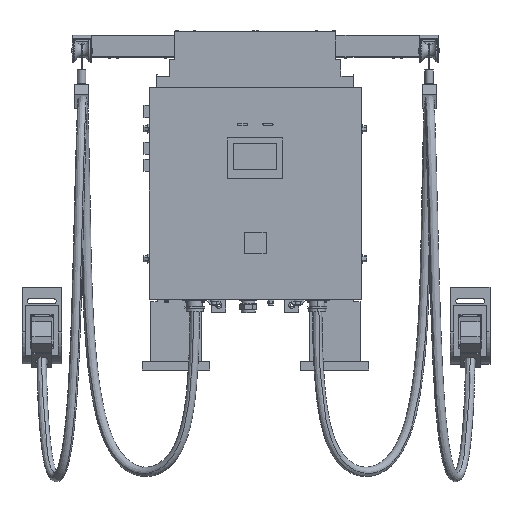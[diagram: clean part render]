
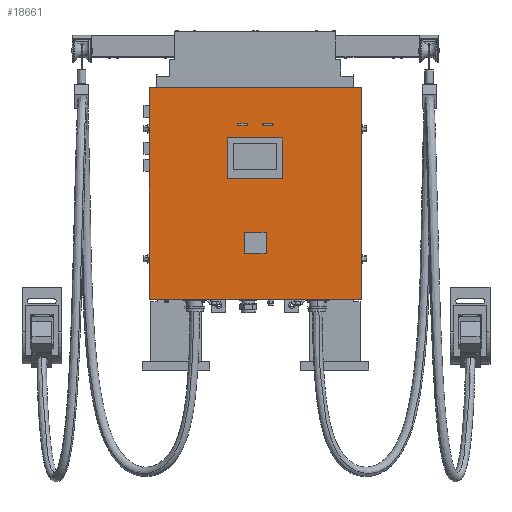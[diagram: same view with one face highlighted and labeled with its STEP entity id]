
A CAD part, top view. The second image highlights one B-rep face of the part: STEP entity #18661.
In plain terms, the highlighted planar face has unit normal (0, 0, 1).
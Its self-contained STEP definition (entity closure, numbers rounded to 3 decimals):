
#6055=DIRECTION('',(0.,-1.,0.));
#6056=VECTOR('',#6055,750.27);
#6057=CARTESIAN_POINT('',(775.75,1000.,338.7));
#6058=LINE('',#6057,#6056);
#6062=DIRECTION('',(0.,1.,0.));
#6063=VECTOR('',#6062,750.27);
#6064=CARTESIAN_POINT('',(25.75,249.73,338.7));
#6065=LINE('',#6064,#6063);
#6069=DIRECTION('',(-1.,0.,0.));
#6070=VECTOR('',#6069,750.);
#6071=CARTESIAN_POINT('',(775.75,1000.,338.7));
#6072=LINE('',#6071,#6070);
#6076=DIRECTION('',(1.,0.,0.));
#6077=VECTOR('',#6076,77.);
#6078=CARTESIAN_POINT('',(362.25,411.5,338.7));
#6079=LINE('',#6078,#6077);
#6083=DIRECTION('',(0.,1.,0.));
#6084=VECTOR('',#6083,77.);
#6085=CARTESIAN_POINT('',(439.25,411.5,338.7));
#6086=LINE('',#6085,#6084);
#6090=DIRECTION('',(-1.,0.,0.));
#6091=VECTOR('',#6090,77.);
#6092=CARTESIAN_POINT('',(439.25,488.5,338.7));
#6093=LINE('',#6092,#6091);
#6097=DIRECTION('',(0.,-1.,0.));
#6098=VECTOR('',#6097,77.);
#6099=CARTESIAN_POINT('',(362.25,488.5,338.7));
#6100=LINE('',#6099,#6098);
#6104=CARTESIAN_POINT('',(459.75,870.,338.7));
#6105=DIRECTION('',(0.,0.,1.));
#6106=DIRECTION('',(0.,-1.,0.));
#6107=AXIS2_PLACEMENT_3D('',#6104,#6105,#6106);
#6112=DIRECTION('',(-1.,0.,0.));
#6113=VECTOR('',#6112,28.);
#6114=CARTESIAN_POINT('',(459.75,874.,338.7));
#6115=LINE('',#6114,#6113);
#6119=CARTESIAN_POINT('',(431.75,870.,338.7));
#6120=DIRECTION('',(0.,0.,1.));
#6121=DIRECTION('',(0.,1.,0.));
#6122=AXIS2_PLACEMENT_3D('',#6119,#6120,#6121);
#6127=DIRECTION('',(1.,0.,0.));
#6128=VECTOR('',#6127,28.);
#6129=CARTESIAN_POINT('',(431.75,866.,338.7));
#6130=LINE('',#6129,#6128);
#6134=CARTESIAN_POINT('',(369.75,870.,338.7));
#6135=DIRECTION('',(0.,0.,1.));
#6136=DIRECTION('',(0.,-1.,0.));
#6137=AXIS2_PLACEMENT_3D('',#6134,#6135,#6136);
#6142=DIRECTION('',(-1.,0.,0.));
#6143=VECTOR('',#6142,28.);
#6144=CARTESIAN_POINT('',(369.75,874.,338.7));
#6145=LINE('',#6144,#6143);
#6149=CARTESIAN_POINT('',(341.75,870.,338.7));
#6150=DIRECTION('',(0.,0.,1.));
#6151=DIRECTION('',(0.,1.,0.));
#6152=AXIS2_PLACEMENT_3D('',#6149,#6150,#6151);
#6157=DIRECTION('',(1.,0.,0.));
#6158=VECTOR('',#6157,28.);
#6159=CARTESIAN_POINT('',(341.75,866.,338.7));
#6160=LINE('',#6159,#6158);
#6164=DIRECTION('',(0.,1.,0.));
#6165=VECTOR('',#6164,143.);
#6166=CARTESIAN_POINT('',(498.75,678.5,338.7));
#6167=LINE('',#6166,#6165);
#6171=DIRECTION('',(-1.,0.,0.));
#6172=VECTOR('',#6171,196.);
#6173=CARTESIAN_POINT('',(498.75,821.5,338.7));
#6174=LINE('',#6173,#6172);
#6178=DIRECTION('',(0.,-1.,0.));
#6179=VECTOR('',#6178,143.);
#6180=CARTESIAN_POINT('',(302.75,821.5,338.7));
#6181=LINE('',#6180,#6179);
#6185=DIRECTION('',(1.,0.,0.));
#6186=VECTOR('',#6185,196.);
#6187=CARTESIAN_POINT('',(302.75,678.5,338.7));
#6188=LINE('',#6187,#6186);
#6206=DIRECTION('',(-1.,0.,0.));
#6207=VECTOR('',#6206,750.);
#6208=CARTESIAN_POINT('',(775.75,249.73,338.7));
#6209=LINE('',#6208,#6207);
#11125=CARTESIAN_POINT('',(775.75,1000.,338.7));
#11126=CARTESIAN_POINT('',(25.75,1000.,338.7));
#11127=VERTEX_POINT('',#11125);
#11128=VERTEX_POINT('',#11126);
#11197=CARTESIAN_POINT('',(498.75,678.5,338.7));
#11198=CARTESIAN_POINT('',(498.75,821.5,338.7));
#11199=VERTEX_POINT('',#11197);
#11200=VERTEX_POINT('',#11198);
#11201=CARTESIAN_POINT('',(302.75,821.5,338.7));
#11202=VERTEX_POINT('',#11201);
#11203=CARTESIAN_POINT('',(302.75,678.5,338.7));
#11204=VERTEX_POINT('',#11203);
#11277=CARTESIAN_POINT('',(369.75,866.,338.7));
#11278=CARTESIAN_POINT('',(369.75,874.,338.7));
#11279=VERTEX_POINT('',#11277);
#11280=VERTEX_POINT('',#11278);
#11281=CARTESIAN_POINT('',(341.75,874.,338.7));
#11282=VERTEX_POINT('',#11281);
#11283=CARTESIAN_POINT('',(341.75,866.,338.7));
#11284=VERTEX_POINT('',#11283);
#11293=CARTESIAN_POINT('',(459.75,866.,338.7));
#11294=CARTESIAN_POINT('',(459.75,874.,338.7));
#11295=VERTEX_POINT('',#11293);
#11296=VERTEX_POINT('',#11294);
#11297=CARTESIAN_POINT('',(431.75,874.,338.7));
#11298=VERTEX_POINT('',#11297);
#11299=CARTESIAN_POINT('',(431.75,866.,338.7));
#11300=VERTEX_POINT('',#11299);
#11365=CARTESIAN_POINT('',(362.25,411.5,338.7));
#11366=CARTESIAN_POINT('',(439.25,411.5,338.7));
#11367=VERTEX_POINT('',#11365);
#11368=VERTEX_POINT('',#11366);
#11369=CARTESIAN_POINT('',(439.25,488.5,338.7));
#11370=VERTEX_POINT('',#11369);
#11371=CARTESIAN_POINT('',(362.25,488.5,338.7));
#11372=VERTEX_POINT('',#11371);
#11797=CARTESIAN_POINT('',(25.75,249.73,338.7));
#11799=VERTEX_POINT('',#11797);
#11803=CARTESIAN_POINT('',(775.75,249.73,338.7));
#11804=VERTEX_POINT('',#11803);
#18607=CARTESIAN_POINT('',(0.,0.,338.7));
#18608=DIRECTION('',(0.,0.,1.));
#18609=DIRECTION('',(1.,0.,0.));
#18610=AXIS2_PLACEMENT_3D('',#18607,#18608,#18609);
#18611=PLANE('',#18610);
#18613=ORIENTED_EDGE('',*,*,#18612,.T.);
#18615=ORIENTED_EDGE('',*,*,#18614,.T.);
#18616=ORIENTED_EDGE('',*,*,#18585,.T.);
#18618=ORIENTED_EDGE('',*,*,#18617,.F.);
#18619=EDGE_LOOP('',(#18613,#18615,#18616,#18618));
#18620=FACE_OUTER_BOUND('',#18619,.F.);
#18622=ORIENTED_EDGE('',*,*,#18621,.T.);
#18624=ORIENTED_EDGE('',*,*,#18623,.T.);
#18626=ORIENTED_EDGE('',*,*,#18625,.T.);
#18628=ORIENTED_EDGE('',*,*,#18627,.T.);
#18629=EDGE_LOOP('',(#18622,#18624,#18626,#18628));
#18630=FACE_BOUND('',#18629,.F.);
#18632=ORIENTED_EDGE('',*,*,#18631,.T.);
#18634=ORIENTED_EDGE('',*,*,#18633,.T.);
#18636=ORIENTED_EDGE('',*,*,#18635,.T.);
#18638=ORIENTED_EDGE('',*,*,#18637,.T.);
#18639=EDGE_LOOP('',(#18632,#18634,#18636,#18638));
#18640=FACE_BOUND('',#18639,.F.);
#18642=ORIENTED_EDGE('',*,*,#18641,.T.);
#18644=ORIENTED_EDGE('',*,*,#18643,.T.);
#18646=ORIENTED_EDGE('',*,*,#18645,.T.);
#18648=ORIENTED_EDGE('',*,*,#18647,.T.);
#18649=EDGE_LOOP('',(#18642,#18644,#18646,#18648));
#18650=FACE_BOUND('',#18649,.F.);
#18652=ORIENTED_EDGE('',*,*,#18651,.T.);
#18654=ORIENTED_EDGE('',*,*,#18653,.T.);
#18656=ORIENTED_EDGE('',*,*,#18655,.T.);
#18658=ORIENTED_EDGE('',*,*,#18657,.T.);
#18659=EDGE_LOOP('',(#18652,#18654,#18656,#18658));
#18660=FACE_BOUND('',#18659,.F.);
#6108=CIRCLE('',#6107,4.);
#6123=CIRCLE('',#6122,4.);
#6138=CIRCLE('',#6137,4.);
#6153=CIRCLE('',#6152,4.);
#18585=EDGE_CURVE('',#11799,#11128,#6065,.T.);
#18612=EDGE_CURVE('',#11127,#11804,#6058,.T.);
#18614=EDGE_CURVE('',#11804,#11799,#6209,.T.);
#18617=EDGE_CURVE('',#11127,#11128,#6072,.T.);
#18621=EDGE_CURVE('',#11367,#11368,#6079,.T.);
#18623=EDGE_CURVE('',#11368,#11370,#6086,.T.);
#18625=EDGE_CURVE('',#11370,#11372,#6093,.T.);
#18627=EDGE_CURVE('',#11372,#11367,#6100,.T.);
#18631=EDGE_CURVE('',#11295,#11296,#6108,.T.);
#18633=EDGE_CURVE('',#11296,#11298,#6115,.T.);
#18635=EDGE_CURVE('',#11298,#11300,#6123,.T.);
#18637=EDGE_CURVE('',#11300,#11295,#6130,.T.);
#18641=EDGE_CURVE('',#11279,#11280,#6138,.T.);
#18643=EDGE_CURVE('',#11280,#11282,#6145,.T.);
#18645=EDGE_CURVE('',#11282,#11284,#6153,.T.);
#18647=EDGE_CURVE('',#11284,#11279,#6160,.T.);
#18651=EDGE_CURVE('',#11199,#11200,#6167,.T.);
#18653=EDGE_CURVE('',#11200,#11202,#6174,.T.);
#18655=EDGE_CURVE('',#11202,#11204,#6181,.T.);
#18657=EDGE_CURVE('',#11204,#11199,#6188,.T.);
#18661=ADVANCED_FACE('',(#18620,#18630,#18640,#18650,#18660),#18611,.T.);
